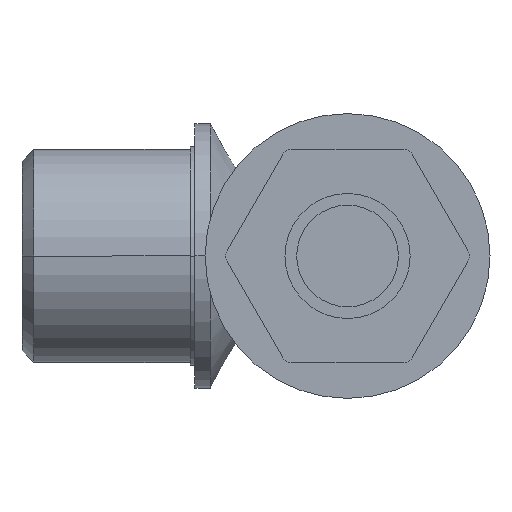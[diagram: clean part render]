
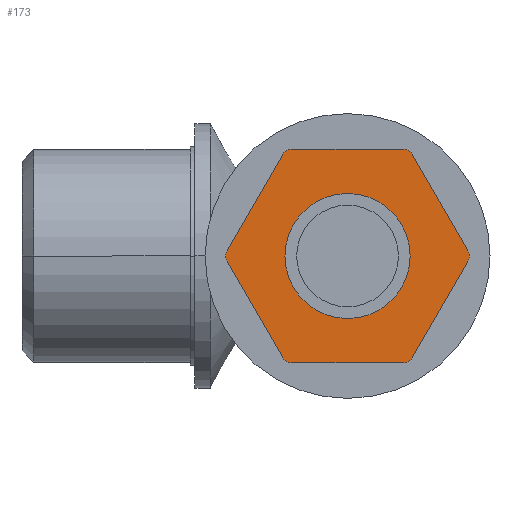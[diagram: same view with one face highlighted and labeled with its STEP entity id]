
A CAD part, left-side view. The second image highlights one B-rep face of the part: STEP entity #173.
In plain terms, the highlighted planar face has unit normal (-1, 0, 0).
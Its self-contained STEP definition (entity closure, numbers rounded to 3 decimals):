
#173 = ADVANCED_FACE( '', ( #383, #384 ), #385, .T. );
#383 = FACE_OUTER_BOUND( '', #599, .T. );
#384 = FACE_BOUND( '', #600, .T. );
#385 = PLANE( '', #601 );
#599 = EDGE_LOOP( '', ( #1435, #1436, #1437, #1438, #1439, #1440, #1441, #1442, #1443, #1444, #1445, #1446 ) );
#600 = EDGE_LOOP( '', ( #1447, #1448 ) );
#601 = AXIS2_PLACEMENT_3D( '', #1449, #1450, #1451 );
#1435 = ORIENTED_EDGE( '', *, *, #1670, .T. );
#1436 = ORIENTED_EDGE( '', *, *, #1703, .T. );
#1437 = ORIENTED_EDGE( '', *, *, #1700, .T. );
#1438 = ORIENTED_EDGE( '', *, *, #1697, .T. );
#1439 = ORIENTED_EDGE( '', *, *, #1694, .T. );
#1440 = ORIENTED_EDGE( '', *, *, #1691, .T. );
#1441 = ORIENTED_EDGE( '', *, *, #1688, .T. );
#1442 = ORIENTED_EDGE( '', *, *, #1685, .T. );
#1443 = ORIENTED_EDGE( '', *, *, #1682, .T. );
#1444 = ORIENTED_EDGE( '', *, *, #1679, .T. );
#1445 = ORIENTED_EDGE( '', *, *, #1676, .T. );
#1446 = ORIENTED_EDGE( '', *, *, #1673, .T. );
#1447 = ORIENTED_EDGE( '', *, *, #1483, .F. );
#1448 = ORIENTED_EDGE( '', *, *, #1753, .F. );
#1449 = CARTESIAN_POINT( '', ( -40., -14.075, 0. ) );
#1450 = DIRECTION( '', ( -1., 0., 0. ) );
#1451 = DIRECTION( '', ( 0., 1., 0. ) );
#1483 = EDGE_CURVE( '', #1765, #1768, #1769, .T. );
#1670 = EDGE_CURVE( '', #2088, #2086, #2089, .T. );
#1673 = EDGE_CURVE( '', #2093, #2088, #2094, .T. );
#1676 = EDGE_CURVE( '', #2098, #2093, #2099, .T. );
#1679 = EDGE_CURVE( '', #2103, #2098, #2104, .T. );
#1682 = EDGE_CURVE( '', #2108, #2103, #2109, .T. );
#1685 = EDGE_CURVE( '', #2113, #2108, #2114, .T. );
#1688 = EDGE_CURVE( '', #2118, #2113, #2119, .T. );
#1691 = EDGE_CURVE( '', #2123, #2118, #2124, .T. );
#1694 = EDGE_CURVE( '', #2128, #2123, #2129, .T. );
#1697 = EDGE_CURVE( '', #2133, #2128, #2134, .T. );
#1700 = EDGE_CURVE( '', #2138, #2133, #2139, .T. );
#1703 = EDGE_CURVE( '', #2086, #2138, #2142, .T. );
#1753 = EDGE_CURVE( '', #1768, #1765, #2216, .T. );
#1765 = VERTEX_POINT( '', #2230 );
#1768 = VERTEX_POINT( '', #2234 );
#1769 = CIRCLE( '', #2235, 6.15 );
#2086 = VERTEX_POINT( '', #3621 );
#2088 = VERTEX_POINT( '', #3624 );
#2089 = LINE( '', #3625, #3626 );
#2093 = VERTEX_POINT( '', #3631 );
#2094 = CIRCLE( '', #3632, 1. );
#2098 = VERTEX_POINT( '', #3638 );
#2099 = LINE( '', #3639, #3640 );
#2103 = VERTEX_POINT( '', #3645 );
#2104 = CIRCLE( '', #3646, 1. );
#2108 = VERTEX_POINT( '', #3652 );
#2109 = LINE( '', #3653, #3654 );
#2113 = VERTEX_POINT( '', #3659 );
#2114 = CIRCLE( '', #3660, 1. );
#2118 = VERTEX_POINT( '', #3666 );
#2119 = LINE( '', #3667, #3668 );
#2123 = VERTEX_POINT( '', #3673 );
#2124 = CIRCLE( '', #3674, 1. );
#2128 = VERTEX_POINT( '', #3680 );
#2129 = LINE( '', #3681, #3682 );
#2133 = VERTEX_POINT( '', #3687 );
#2134 = CIRCLE( '', #3688, 1. );
#2138 = VERTEX_POINT( '', #3694 );
#2139 = LINE( '', #3695, #3696 );
#2142 = CIRCLE( '', #3700, 1. );
#2216 = CIRCLE( '', #3798, 6.15 );
#2230 = CARTESIAN_POINT( '', ( -40., -18.35, 0. ) );
#2234 = CARTESIAN_POINT( '', ( -40., -30.65, 0. ) );
#2235 = AXIS2_PLACEMENT_3D( '', #3811, #3812, #3813 );
#3621 = CARTESIAN_POINT( '', ( -40., -19.015, 10.5 ) );
#3624 = CARTESIAN_POINT( '', ( -40., -29.985, 10.5 ) );
#3625 = CARTESIAN_POINT( '', ( -40., -16.545, 10.5 ) );
#3626 = VECTOR( '', #4056, 1. );
#3631 = CARTESIAN_POINT( '', ( -40., -30.851, 10. ) );
#3632 = AXIS2_PLACEMENT_3D( '', #4061, #4062, #4063 );
#3638 = CARTESIAN_POINT( '', ( -40., -36.336, 0.5 ) );
#3639 = CARTESIAN_POINT( '', ( -40., -30.919, 9.882 ) );
#3640 = VECTOR( '', #4066, 1. );
#3645 = CARTESIAN_POINT( '', ( -40., -36.336, -0.5 ) );
#3646 = AXIS2_PLACEMENT_3D( '', #4071, #4072, #4073 );
#3652 = CARTESIAN_POINT( '', ( -40., -30.851, -10. ) );
#3653 = CARTESIAN_POINT( '', ( -40., -33.661, -5.132 ) );
#3654 = VECTOR( '', #4076, 1. );
#3659 = CARTESIAN_POINT( '', ( -40., -29.985, -10.5 ) );
#3660 = AXIS2_PLACEMENT_3D( '', #4081, #4082, #4083 );
#3666 = CARTESIAN_POINT( '', ( -40., -19.015, -10.5 ) );
#3667 = CARTESIAN_POINT( '', ( -40., -22.03, -10.5 ) );
#3668 = VECTOR( '', #4086, 1. );
#3673 = CARTESIAN_POINT( '', ( -40., -18.149, -10. ) );
#3674 = AXIS2_PLACEMENT_3D( '', #4091, #4092, #4093 );
#3680 = CARTESIAN_POINT( '', ( -40., -12.664, -0.5 ) );
#3681 = CARTESIAN_POINT( '', ( -40., -15.475, -5.368 ) );
#3682 = VECTOR( '', #4096, 1. );
#3687 = CARTESIAN_POINT( '', ( -40., -12.664, 0.5 ) );
#3688 = AXIS2_PLACEMENT_3D( '', #4101, #4102, #4103 );
#3694 = CARTESIAN_POINT( '', ( -40., -18.149, 10. ) );
#3695 = CARTESIAN_POINT( '', ( -40., -12.732, 0.618 ) );
#3696 = VECTOR( '', #4106, 1. );
#3700 = AXIS2_PLACEMENT_3D( '', #4111, #4112, #4113 );
#3798 = AXIS2_PLACEMENT_3D( '', #4213, #4214, #4215 );
#3811 = CARTESIAN_POINT( '', ( -40., -24.5, 0. ) );
#3812 = DIRECTION( '', ( -1., 0., 0. ) );
#3813 = DIRECTION( '', ( 0., 1., 0. ) );
#4056 = DIRECTION( '', ( 0., 1., 0. ) );
#4061 = CARTESIAN_POINT( '', ( -40., -29.985, 9.5 ) );
#4062 = DIRECTION( '', ( -1., 0., 0. ) );
#4063 = DIRECTION( '', ( 0., 0., 1. ) );
#4066 = DIRECTION( '', ( 0., 0.5, 0.866 ) );
#4071 = CARTESIAN_POINT( '', ( -40., -35.47, 0. ) );
#4072 = DIRECTION( '', ( -1., 0., 0. ) );
#4073 = DIRECTION( '', ( 0., -0.866, 0.5 ) );
#4076 = DIRECTION( '', ( 0., -0.5, 0.866 ) );
#4081 = CARTESIAN_POINT( '', ( -40., -29.985, -9.5 ) );
#4082 = DIRECTION( '', ( -1., 0., 0. ) );
#4083 = DIRECTION( '', ( 0., -0.866, -0.5 ) );
#4086 = DIRECTION( '', ( 0., -1., 0. ) );
#4091 = CARTESIAN_POINT( '', ( -40., -19.015, -9.5 ) );
#4092 = DIRECTION( '', ( -1., 0., 0. ) );
#4093 = DIRECTION( '', ( 0., 0., -1. ) );
#4096 = DIRECTION( '', ( 0., -0.5, -0.866 ) );
#4101 = CARTESIAN_POINT( '', ( -40., -13.53, 0. ) );
#4102 = DIRECTION( '', ( -1., 0., 0. ) );
#4103 = DIRECTION( '', ( 0., 0.866, -0.5 ) );
#4106 = DIRECTION( '', ( 0., 0.5, -0.866 ) );
#4111 = CARTESIAN_POINT( '', ( -40., -19.015, 9.5 ) );
#4112 = DIRECTION( '', ( -1., 0., 0. ) );
#4113 = DIRECTION( '', ( 0., 0.866, 0.5 ) );
#4213 = CARTESIAN_POINT( '', ( -40., -24.5, 0. ) );
#4214 = DIRECTION( '', ( -1., 0., 0. ) );
#4215 = DIRECTION( '', ( 0., 1., 0. ) );
